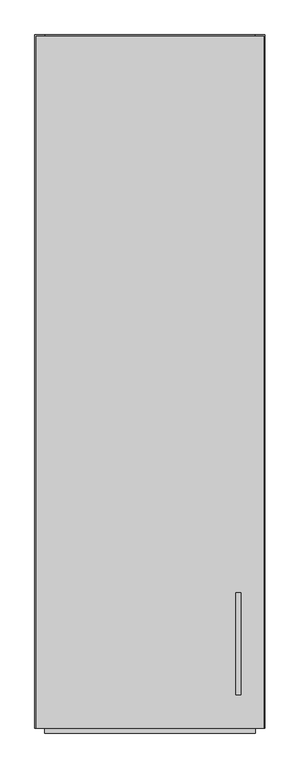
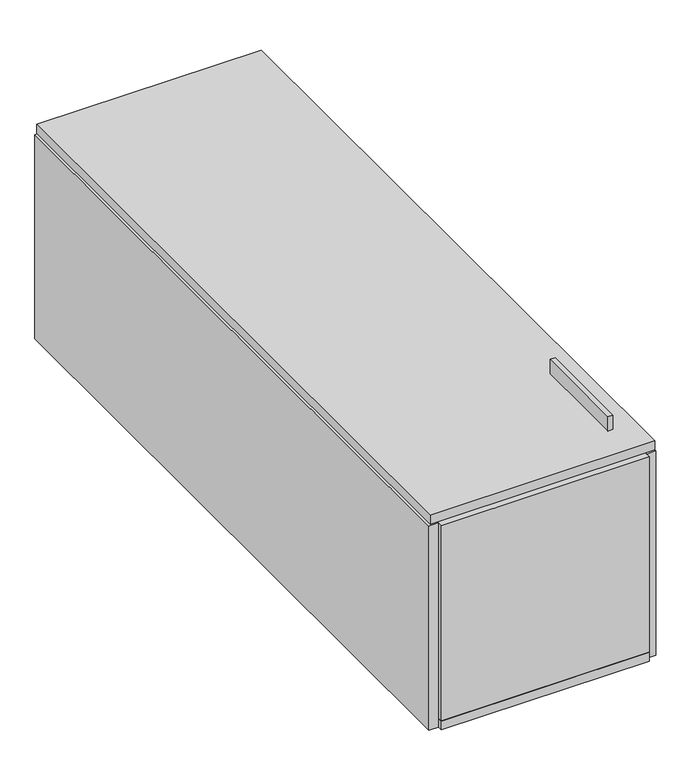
"""IFC4 building model written with IfcOpenShell, lengths in millimetres: proxy geometry, BASYS^OFFICE 5_WARDROBE-18x18x55-LEFT END."""

from ifc_helpers import new_model, si_unit, frame, origin, origin_with_axes, place, context, project, spatial, polyline, outline, extrude, source, transform, mapped, element, save


def generic_models_c772a571(model_context):
    return source(origin(), model_context, "Body", "SweptSolid", [
        extrude(outline(polyline([(409.01875, 278.2), (409.01875, 76.2), (399.01875, 76.2), (399.01875, 278.2), (409.01875, 278.2)])), frame((0.0, 0.0, 457.2), z_axis=(0.0, 0.0, 1.0), x_axis=(1.0, 0.0, 0.0)), (0.0, 0.0, 1.0), 30.0),
        extrude(outline(polyline([(19.05, 9.525), (0.0, 9.525), (0.0, 1384.3), (19.05, 1384.3), (19.05, 9.525)])), origin_with_axes(), (0.0, 0.0, 1.0), 434.975),
        extrude(outline(polyline([(457.2, 9.525), (438.15, 9.525), (438.15, 1384.3), (457.2, 1384.3), (457.2, 9.525)])), origin_with_axes(), (0.0, 0.0, 1.0), 434.975),
        extrude(outline(polyline([(454.81875, 9.525), (2.38125, 9.525), (2.38125, 1381.91875), (454.81875, 1381.91875), (454.81875, 9.525)])), frame((0.0, 0.0, 438.15), z_axis=(0.0, 0.0, 1.0), x_axis=(1.0, 0.0, 0.0)), (0.0, 0.0, 1.0), 19.05),
        extrude(outline(polyline([(438.15, 1384.3), (438.15, 0.0), (19.05, 0.0), (19.05, 1384.3), (438.15, 1384.3)])), origin_with_axes(), (0.0, 0.0, 1.0), 19.05),
        extrude(outline(polyline([(438.15, 19.05), (438.15, 0.0), (19.05, 0.0), (19.05, 19.05), (438.15, 19.05)])), frame((0.0, 0.0, 19.05), z_axis=(0.0, 0.0, 1.0), x_axis=(1.0, 0.0, 0.0)), (0.0, 0.0, 1.0), 415.925),
        extrude(outline(polyline([(19.05, 1365.25), (19.05, 1384.3), (438.15, 1384.3), (438.15, 1365.25), (19.05, 1365.25)])), frame((0.0, 0.0, 19.05), z_axis=(0.0, 0.0, 1.0), x_axis=(1.0, 0.0, 0.0)), (0.0, 0.0, 1.0), 415.925),
    ])


if __name__ == "__main__":
    model = new_model("IFC4")
    model_context = context("Model", 3, world=origin())
    ifc_project = project(units=[si_unit("LENGTHUNIT", "METRE", prefix="MILLI")], contexts=[model_context])
    site = spatial("IfcSite", under=ifc_project)
    building = spatial("IfcBuilding", under=site)
    placement = place(None, origin())
    generic_models_shape = generic_models_c772a571(model_context)
    element("IfcBuildingElementProxy", 1, Name="BASYS^OFFICE 5_WARDROBE-18x18x55-LEFT END", ObjectType="BASYS^OFFICE 5_WARDROBE-18x18x55-LEFT END", at=placement, inside=building, context=model_context, shape_type="MappedRepresentation", body=[
        mapped(generic_models_shape, transform((0.0, 0.0, 0.0), x_axis=(1.0, 0.0, 0.0), y_axis=(0.0, 1.0, 0.0), z_axis=(0.0, 0.0, 1.0))),
    ])
    save(model, "model.ifc")
